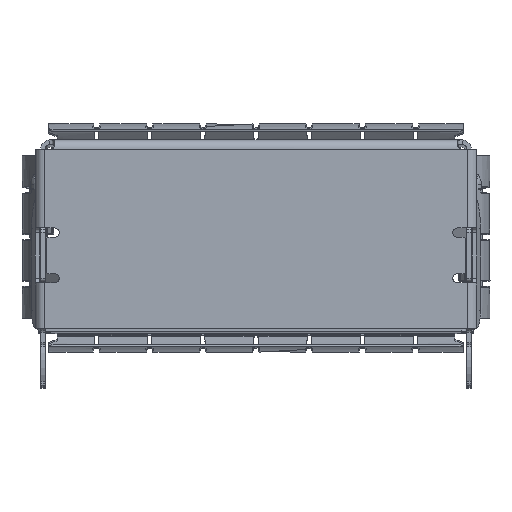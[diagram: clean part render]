
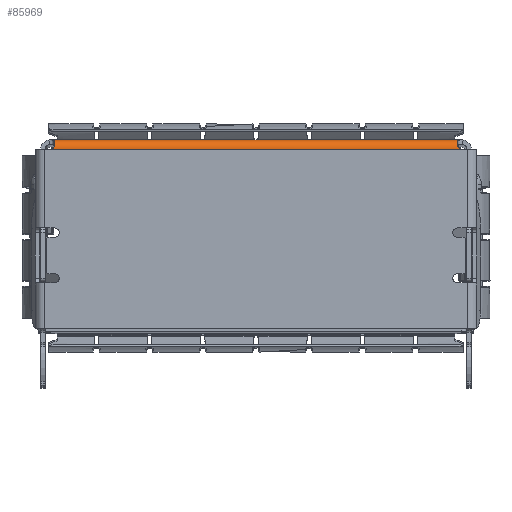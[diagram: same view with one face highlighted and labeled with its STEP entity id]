
A CAD part, top view. The second image highlights one B-rep face of the part: STEP entity #85969.
In plain terms, the highlighted cylindrical face has radius 0.5 mm (diameter 1 mm), a partial arc.
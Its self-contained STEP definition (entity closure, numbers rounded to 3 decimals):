
#29389=CARTESIAN_POINT('',(-11.24,3.35,
90.5));
#29390=CARTESIAN_POINT('',(-11.225,3.35,
90.5));
#29391=CARTESIAN_POINT('',(-11.195,3.35,
90.504));
#29392=CARTESIAN_POINT('',(-11.149,3.35,
90.523));
#29393=CARTESIAN_POINT('',(-11.105,3.347,
90.555));
#29394=CARTESIAN_POINT('',(-11.063,3.341,
90.602));
#29395=CARTESIAN_POINT('',(-11.027,3.325,
90.662));
#29396=CARTESIAN_POINT('',(-11.,3.296,
90.731));
#29397=CARTESIAN_POINT('',(-10.984,3.254,
90.798));
#29398=CARTESIAN_POINT('',(-10.98,3.207,
90.852));
#29399=CARTESIAN_POINT('',(-10.983,3.16,
90.894));
#29400=CARTESIAN_POINT('',(-10.991,3.115,
90.925));
#29401=CARTESIAN_POINT('',(-11.003,3.074,
90.948));
#29402=CARTESIAN_POINT('',(-11.017,3.036,
90.964));
#29403=CARTESIAN_POINT('',(-11.033,3.003,
90.976));
#29404=CARTESIAN_POINT('',(-11.05,2.974,
90.985));
#29405=CARTESIAN_POINT('',(-11.068,2.948,
90.99));
#29406=CARTESIAN_POINT('',(-11.085,2.927,
90.994));
#29407=CARTESIAN_POINT('',(-11.103,2.909,
90.997));
#29408=CARTESIAN_POINT('',(-11.12,2.894,
90.998));
#29409=CARTESIAN_POINT('',(-11.137,2.882,
90.999));
#29410=CARTESIAN_POINT('',(-11.153,2.872,
91.));
#29411=CARTESIAN_POINT('',(-11.169,2.865,
91.));
#29412=CARTESIAN_POINT('',(-11.183,2.859,
91.));
#29413=CARTESIAN_POINT('',(-11.196,2.855,
91.));
#29414=CARTESIAN_POINT('',(-11.209,2.853,
91.));
#29415=CARTESIAN_POINT('',(-11.22,2.851,
91.));
#29416=CARTESIAN_POINT('',(-11.231,2.85,
91.));
#29417=CARTESIAN_POINT('',(-11.237,2.85,91.));
#29418=CARTESIAN_POINT('',(-11.24,2.85,91.));
#29517=CARTESIAN_POINT('',(-11.24,2.85,91.));
#29523=DIRECTION('',(1.,0.,0.));
#29524=VECTOR('',#29523,22.48);
#29525=CARTESIAN_POINT('',(-11.24,2.85,91.));
#29526=LINE('',#29525,#29524);
#29595=DIRECTION('',(1.,0.,0.));
#29596=VECTOR('',#29595,22.48);
#29597=CARTESIAN_POINT('',(-11.24,3.35,
90.5));
#29598=LINE('',#29597,#29596);
#29631=CARTESIAN_POINT('',(11.24,2.85,91.));
#29632=CARTESIAN_POINT('',(11.225,2.85,91.));
#29633=CARTESIAN_POINT('',(11.195,2.854,91.));
#29634=CARTESIAN_POINT('',(11.149,2.872,91.));
#29635=CARTESIAN_POINT('',(11.105,2.905,90.998));
#29636=CARTESIAN_POINT('',(11.064,2.951,90.991));
#29637=CARTESIAN_POINT('',(11.027,3.011,90.975));
#29638=CARTESIAN_POINT('',(11.,3.079,90.947));
#29639=CARTESIAN_POINT('',(10.984,3.147,90.905));
#29640=CARTESIAN_POINT('',(10.98,3.202,90.858));
#29641=CARTESIAN_POINT('',(10.983,3.243,90.811));
#29642=CARTESIAN_POINT('',(10.991,3.274,90.766));
#29643=CARTESIAN_POINT('',(11.003,3.297,90.724));
#29644=CARTESIAN_POINT('',(11.017,3.314,90.687));
#29645=CARTESIAN_POINT('',(11.033,3.326,90.653));
#29646=CARTESIAN_POINT('',(11.05,3.335,90.624));
#29647=CARTESIAN_POINT('',(11.067,3.34,90.599));
#29648=CARTESIAN_POINT('',(11.085,3.344,90.577));
#29649=CARTESIAN_POINT('',(11.103,3.347,90.559));
#29650=CARTESIAN_POINT('',(11.12,3.348,90.544));
#29651=CARTESIAN_POINT('',(11.137,3.349,90.532));
#29652=CARTESIAN_POINT('',(11.153,3.35,90.522));
#29653=CARTESIAN_POINT('',(11.169,3.35,90.515));
#29654=CARTESIAN_POINT('',(11.183,3.35,90.509));
#29655=CARTESIAN_POINT('',(11.196,3.35,90.505));
#29656=CARTESIAN_POINT('',(11.209,3.35,90.503));
#29657=CARTESIAN_POINT('',(11.22,3.35,90.501));
#29658=CARTESIAN_POINT('',(11.231,3.35,90.5));
#29659=CARTESIAN_POINT('',(11.237,3.35,90.5));
#29660=CARTESIAN_POINT('',(11.24,3.35,90.5));
#38331=CARTESIAN_POINT('',(-11.24,3.35,90.5));
#38332=VERTEX_POINT('',#38331);
#38510=VERTEX_POINT('',#29517);
#38513=CARTESIAN_POINT('',(11.24,3.35,90.5));
#38514=VERTEX_POINT('',#38513);
#38515=VERTEX_POINT('',#29631);
#85957=CARTESIAN_POINT('',(11.24,2.85,90.5));
#85958=DIRECTION('',(-1.,0.,0.));
#85959=DIRECTION('',(0.,0.,1.));
#85960=AXIS2_PLACEMENT_3D('',#85957,#85958,#85959);
#85961=CYLINDRICAL_SURFACE('',#85960,0.5);
#85962=ORIENTED_EDGE('',*,*,#65470,.T.);
#85964=ORIENTED_EDGE('',*,*,#85963,.F.);
#85965=ORIENTED_EDGE('',*,*,#85891,.F.);
#85966=ORIENTED_EDGE('',*,*,#85780,.F.);
#85967=EDGE_LOOP('',(#85962,#85964,#85965,#85966));
#85968=FACE_OUTER_BOUND('',#85967,.F.);
#85969=ADVANCED_FACE('',(#85968),#85961,.T.);
#29419=B_SPLINE_CURVE_WITH_KNOTS('',3,(#29389,#29390,#29391,#29392,#29393,
#29394,#29395,#29396,#29397,#29398,#29399,#29400,#29401,#29402,#29403,#29404,
#29405,#29406,#29407,#29408,#29409,#29410,#29411,#29412,#29413,#29414,#29415,
#29416,#29417,#29418),.UNSPECIFIED.,.F.,.F.,(4,1,1,1,1,1,1,1,1,1,1,1,1,1,1,1,1,
1,1,1,1,1,1,1,1,1,1,4),(0.,0.037,0.074,
0.111,0.148,0.185,0.222,
0.259,0.296,0.333,0.37,
0.407,0.444,0.481,0.519,
0.556,0.593,0.63,0.667,
0.704,0.741,0.778,0.815,
0.852,0.889,0.926,0.963,1.),
.UNSPECIFIED.);
#29661=B_SPLINE_CURVE_WITH_KNOTS('',3,(#29631,#29632,#29633,#29634,#29635,
#29636,#29637,#29638,#29639,#29640,#29641,#29642,#29643,#29644,#29645,#29646,
#29647,#29648,#29649,#29650,#29651,#29652,#29653,#29654,#29655,#29656,#29657,
#29658,#29659,#29660),.UNSPECIFIED.,.F.,.F.,(4,1,1,1,1,1,1,1,1,1,1,1,1,1,1,1,1,
1,1,1,1,1,1,1,1,1,1,4),(0.,0.037,0.074,
0.111,0.148,0.185,0.222,
0.259,0.296,0.333,0.37,
0.407,0.444,0.481,0.519,
0.556,0.593,0.63,0.667,
0.704,0.741,0.778,0.815,
0.852,0.889,0.926,0.963,1.),
.UNSPECIFIED.);
#65470=EDGE_CURVE('',#38332,#38514,#29598,.T.);
#85780=EDGE_CURVE('',#38332,#38510,#29419,.T.);
#85891=EDGE_CURVE('',#38510,#38515,#29526,.T.);
#85963=EDGE_CURVE('',#38515,#38514,#29661,.T.);
